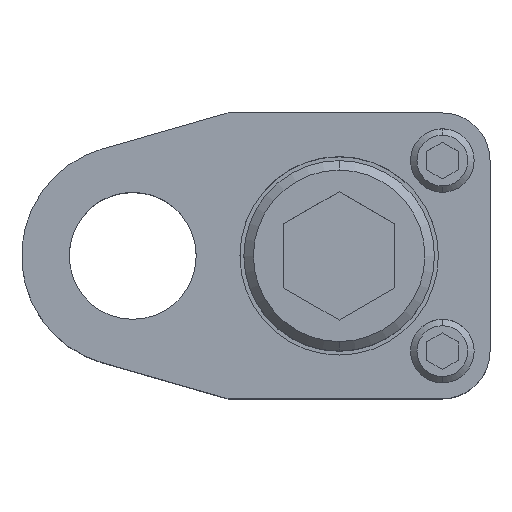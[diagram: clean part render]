
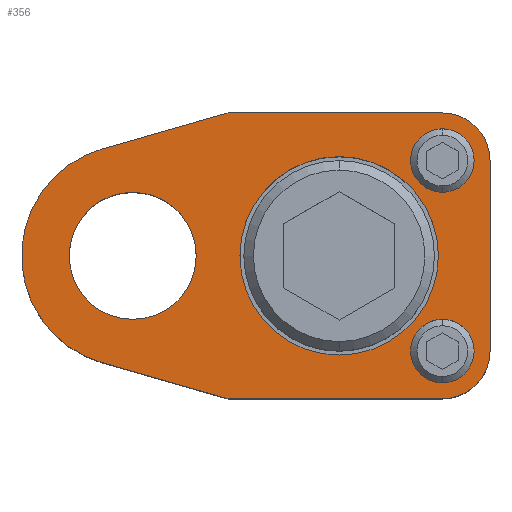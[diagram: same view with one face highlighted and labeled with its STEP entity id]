
A CAD part, top view. The second image highlights one B-rep face of the part: STEP entity #356.
In plain terms, the highlighted planar face has unit normal (0, 0, 1).
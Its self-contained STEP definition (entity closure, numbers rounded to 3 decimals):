
#178=FACE_BOUND('',#617,.T.);
#179=FACE_BOUND('',#618,.T.);
#180=FACE_BOUND('',#619,.T.);
#181=FACE_BOUND('',#620,.T.);
#182=FACE_BOUND('',#621,.T.);
#224=CIRCLE('',#1899,6.);
#226=CIRCLE('',#1904,14.);
#229=CIRCLE('',#1910,6.);
#231=CIRCLE('',#1913,4.);
#233=CIRCLE('',#1916,4.);
#235=CIRCLE('',#1919,4.);
#237=CIRCLE('',#1922,4.);
#242=CIRCLE('',#1930,12.5);
#243=CIRCLE('',#1931,12.5);
#244=CIRCLE('',#1932,8.);
#245=CIRCLE('',#1933,8.);
#356=ADVANCED_FACE('',(#178,#179,#180,#181,#182),#447,.T.);
#447=PLANE('',#1934);
#617=EDGE_LOOP('',(#887,#888,#889,#890,#891,#892,#893,#894));
#618=EDGE_LOOP('',(#895,#896));
#619=EDGE_LOOP('',(#897,#898));
#620=EDGE_LOOP('',(#899,#900));
#621=EDGE_LOOP('',(#901,#902));
#887=ORIENTED_EDGE('',*,*,#1406,.T.);
#888=ORIENTED_EDGE('',*,*,#1410,.T.);
#889=ORIENTED_EDGE('',*,*,#1413,.T.);
#890=ORIENTED_EDGE('',*,*,#1416,.T.);
#891=ORIENTED_EDGE('',*,*,#1419,.T.);
#892=ORIENTED_EDGE('',*,*,#1422,.T.);
#893=ORIENTED_EDGE('',*,*,#1425,.T.);
#894=ORIENTED_EDGE('',*,*,#1428,.T.);
#895=ORIENTED_EDGE('',*,*,#1447,.F.);
#896=ORIENTED_EDGE('',*,*,#1448,.F.);
#897=ORIENTED_EDGE('',*,*,#1440,.F.);
#898=ORIENTED_EDGE('',*,*,#1437,.F.);
#899=ORIENTED_EDGE('',*,*,#1434,.F.);
#900=ORIENTED_EDGE('',*,*,#1431,.F.);
#901=ORIENTED_EDGE('',*,*,#1449,.T.);
#902=ORIENTED_EDGE('',*,*,#1450,.T.);
#1228=VERTEX_POINT('',#2773);
#1229=VERTEX_POINT('',#2775);
#1232=VERTEX_POINT('',#2782);
#1234=VERTEX_POINT('',#2788);
#1236=VERTEX_POINT('',#2794);
#1238=VERTEX_POINT('',#2800);
#1240=VERTEX_POINT('',#2806);
#1242=VERTEX_POINT('',#2812);
#1245=VERTEX_POINT('',#2823);
#1246=VERTEX_POINT('',#2825);
#1249=VERTEX_POINT('',#2835);
#1250=VERTEX_POINT('',#2837);
#1255=VERTEX_POINT('',#2856);
#1256=VERTEX_POINT('',#2857);
#1257=VERTEX_POINT('',#2860);
#1258=VERTEX_POINT('',#2861);
#1406=EDGE_CURVE('',#1229,#1228,#1632,.T.);
#1410=EDGE_CURVE('',#1228,#1232,#224,.T.);
#1413=EDGE_CURVE('',#1232,#1234,#1637,.T.);
#1416=EDGE_CURVE('',#1234,#1236,#1640,.T.);
#1419=EDGE_CURVE('',#1236,#1238,#226,.T.);
#1422=EDGE_CURVE('',#1238,#1240,#1644,.T.);
#1425=EDGE_CURVE('',#1240,#1242,#1647,.T.);
#1428=EDGE_CURVE('',#1242,#1229,#229,.T.);
#1431=EDGE_CURVE('',#1245,#1246,#231,.T.);
#1434=EDGE_CURVE('',#1246,#1245,#233,.T.);
#1437=EDGE_CURVE('',#1249,#1250,#235,.T.);
#1440=EDGE_CURVE('',#1250,#1249,#237,.T.);
#1447=EDGE_CURVE('',#1255,#1256,#242,.T.);
#1448=EDGE_CURVE('',#1256,#1255,#243,.T.);
#1449=EDGE_CURVE('',#1257,#1258,#244,.T.);
#1450=EDGE_CURVE('',#1258,#1257,#245,.T.);
#1632=LINE('',#2774,#1766);
#1637=LINE('',#2789,#1771);
#1640=LINE('',#2795,#1774);
#1644=LINE('',#2807,#1778);
#1647=LINE('',#2813,#1781);
#1766=VECTOR('',#2211,1.);
#1771=VECTOR('',#2224,1.);
#1774=VECTOR('',#2229,1.);
#1778=VECTOR('',#2241,1.);
#1781=VECTOR('',#2246,1.);
#1899=AXIS2_PLACEMENT_3D('',#2783,#2217,#2218);
#1904=AXIS2_PLACEMENT_3D('',#2801,#2234,#2235);
#1910=AXIS2_PLACEMENT_3D('',#2817,#2252,#2253);
#1913=AXIS2_PLACEMENT_3D('',#2824,#2259,#2260);
#1916=AXIS2_PLACEMENT_3D('',#2829,#2266,#2267);
#1919=AXIS2_PLACEMENT_3D('',#2836,#2273,#2274);
#1922=AXIS2_PLACEMENT_3D('',#2841,#2280,#2281);
#1930=AXIS2_PLACEMENT_3D('',#2855,#2298,#2299);
#1931=AXIS2_PLACEMENT_3D('',#2858,#2300,#2301);
#1932=AXIS2_PLACEMENT_3D('',#2859,#2302,#2303);
#1933=AXIS2_PLACEMENT_3D('',#2862,#2304,#2305);
#1934=AXIS2_PLACEMENT_3D('',#2863,#2306,#2307);
#2211=DIRECTION('',(0.,1.,0.));
#2217=DIRECTION('',(0.,0.,1.));
#2218=DIRECTION('',(-0.707,-0.707,0.));
#2224=DIRECTION('',(-1.,0.,0.));
#2229=DIRECTION('',(-0.961,-0.275,0.));
#2234=DIRECTION('',(0.,0.,1.));
#2235=DIRECTION('',(0.,1.,0.));
#2241=DIRECTION('',(0.961,-0.275,0.));
#2246=DIRECTION('',(1.,0.,0.));
#2252=DIRECTION('',(0.,0.,1.));
#2253=DIRECTION('',(-0.707,0.707,0.));
#2259=DIRECTION('',(0.,0.,1.));
#2260=DIRECTION('',(1.,0.,0.));
#2266=DIRECTION('',(0.,0.,1.));
#2267=DIRECTION('',(-1.,0.,0.));
#2273=DIRECTION('',(0.,0.,1.));
#2274=DIRECTION('',(1.,0.,0.));
#2280=DIRECTION('',(0.,0.,1.));
#2281=DIRECTION('',(-1.,0.,0.));
#2298=DIRECTION('',(0.,0.,1.));
#2299=DIRECTION('',(1.,0.,0.));
#2300=DIRECTION('',(0.,0.,1.));
#2301=DIRECTION('',(-1.,0.,0.));
#2302=DIRECTION('',(0.,0.,-1.));
#2303=DIRECTION('',(-1.,0.,0.));
#2304=DIRECTION('',(0.,0.,-1.));
#2305=DIRECTION('',(1.,0.,0.));
#2306=DIRECTION('',(0.,0.,1.));
#2307=DIRECTION('',(0.,-1.,0.));
#2773=CARTESIAN_POINT('',(45.,12.,25.));
#2774=CARTESIAN_POINT('',(45.,-12.,25.));
#2775=CARTESIAN_POINT('',(45.,-12.,25.));
#2782=CARTESIAN_POINT('',(39.,18.,25.));
#2783=CARTESIAN_POINT('',(39.,12.,25.));
#2788=CARTESIAN_POINT('',(12.,18.,25.));
#2789=CARTESIAN_POINT('',(12.,18.,25.));
#2794=CARTESIAN_POINT('',(-3.855,13.459,25.));
#2795=CARTESIAN_POINT('',(12.,18.,25.));
#2800=CARTESIAN_POINT('',(-3.855,-13.459,25.));
#2801=CARTESIAN_POINT('',(0.,0.,25.));
#2806=CARTESIAN_POINT('',(12.,-18.,25.));
#2807=CARTESIAN_POINT('',(12.,-18.,25.));
#2812=CARTESIAN_POINT('',(39.,-18.,25.));
#2813=CARTESIAN_POINT('',(12.,-18.,25.));
#2817=CARTESIAN_POINT('',(39.,-12.,25.));
#2823=CARTESIAN_POINT('',(39.,16.,25.));
#2824=CARTESIAN_POINT('',(39.,12.,25.));
#2825=CARTESIAN_POINT('',(39.,8.,25.));
#2829=CARTESIAN_POINT('',(39.,12.,25.));
#2835=CARTESIAN_POINT('',(39.,-8.,25.));
#2836=CARTESIAN_POINT('',(39.,-12.,25.));
#2837=CARTESIAN_POINT('',(39.,-16.,25.));
#2841=CARTESIAN_POINT('',(39.,-12.,25.));
#2855=CARTESIAN_POINT('',(26.,0.,25.));
#2856=CARTESIAN_POINT('',(26.,12.5,25.));
#2857=CARTESIAN_POINT('',(26.,-12.5,25.));
#2858=CARTESIAN_POINT('',(26.,0.,25.));
#2859=CARTESIAN_POINT('',(0.,0.,25.));
#2860=CARTESIAN_POINT('',(0.,8.,25.));
#2861=CARTESIAN_POINT('',(0.,-8.,25.));
#2862=CARTESIAN_POINT('',(0.,0.,25.));
#2863=CARTESIAN_POINT('',(45.,-12.,25.));
